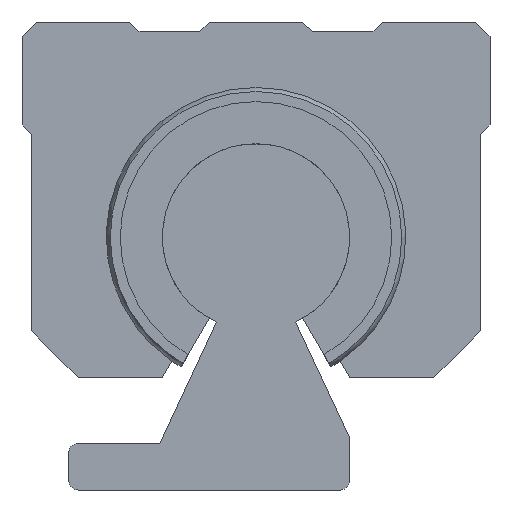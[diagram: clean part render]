
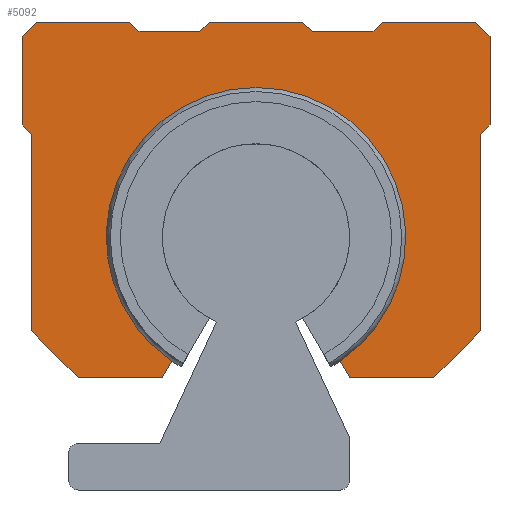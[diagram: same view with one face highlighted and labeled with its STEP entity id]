
A CAD part, left-side view. The second image highlights one B-rep face of the part: STEP entity #5092.
In plain terms, the highlighted planar face has unit normal (-1, 0, 0).
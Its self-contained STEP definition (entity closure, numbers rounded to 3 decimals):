
#3859=CARTESIAN_POINT('',(274.089,-9.0,13.771));
#3860=VERTEX_POINT('',#3859);
#3867=CARTESIAN_POINT('',(274.089,9.0,13.771));
#3868=VERTEX_POINT('',#3867);
#3869=CARTESIAN_POINT('',(274.089,0.0,27.0));
#3870=DIRECTION('',(-1.0,0.0,0.0));
#3871=DIRECTION('',(0.0,-1.0,0.0));
#3872=AXIS2_PLACEMENT_3D('',#3869,#3870,#3871);
#3873=CIRCLE('',#3872,16.0);
#3874=EDGE_CURVE('',#3860,#3868,#3873,.T.);
#4042=CARTESIAN_POINT('',(274.089,-24.,17.0));
#4043=VERTEX_POINT('',#4042);
#4050=CARTESIAN_POINT('',(274.089,-19.0,12.));
#4051=VERTEX_POINT('',#4050);
#4052=CARTESIAN_POINT('',(274.089,-24.,17.0));
#4053=DIRECTION('',(0.0,0.707,-0.707));
#4054=VECTOR('',#4053,7.071);
#4055=LINE('',#4052,#4054);
#4056=EDGE_CURVE('',#4043,#4051,#4055,.T.);
#4081=CARTESIAN_POINT('',(274.089,-24.,38.0));
#4082=VERTEX_POINT('',#4081);
#4089=CARTESIAN_POINT('',(274.089,-24.,38.0));
#4090=DIRECTION('',(0.0,0.0,-1.0));
#4091=VECTOR('',#4090,21.0);
#4092=LINE('',#4089,#4091);
#4093=EDGE_CURVE('',#4082,#4043,#4092,.T.);
#4279=CARTESIAN_POINT('',(274.089,19.,12.));
#4280=VERTEX_POINT('',#4279);
#4287=CARTESIAN_POINT('',(274.089,24.,17.));
#4288=VERTEX_POINT('',#4287);
#4289=CARTESIAN_POINT('',(274.089,19.,12.));
#4290=DIRECTION('',(0.0,0.707,0.707));
#4291=VECTOR('',#4290,7.071);
#4292=LINE('',#4289,#4291);
#4293=EDGE_CURVE('',#4280,#4288,#4292,.T.);
#4311=CARTESIAN_POINT('',(274.089,10.023,12.));
#4312=VERTEX_POINT('',#4311);
#4319=CARTESIAN_POINT('',(274.089,10.023,12.));
#4320=DIRECTION('',(0.0,1.0,0.0));
#4321=VECTOR('',#4320,8.977);
#4322=LINE('',#4319,#4321);
#4323=EDGE_CURVE('',#4312,#4280,#4322,.T.);
#4333=CARTESIAN_POINT('',(274.089,-5.,50.0));
#4334=VERTEX_POINT('',#4333);
#4335=CARTESIAN_POINT('',(274.089,-6.,49.0));
#4336=VERTEX_POINT('',#4335);
#4337=CARTESIAN_POINT('',(274.089,-5.,50.0));
#4338=DIRECTION('',(0.0,-0.707,-0.707));
#4339=VECTOR('',#4338,1.414);
#4340=LINE('',#4337,#4339);
#4341=EDGE_CURVE('',#4334,#4336,#4340,.T.);
#4365=CARTESIAN_POINT('',(274.089,-12.5,49.0));
#4366=VERTEX_POINT('',#4365);
#4367=CARTESIAN_POINT('',(274.089,-6.,49.0));
#4368=DIRECTION('',(0.0,-1.0,0.0));
#4369=VECTOR('',#4368,6.5);
#4370=LINE('',#4367,#4369);
#4371=EDGE_CURVE('',#4336,#4366,#4370,.T.);
#4388=CARTESIAN_POINT('',(274.089,13.5,50.0));
#4389=VERTEX_POINT('',#4388);
#4390=CARTESIAN_POINT('',(274.089,12.5,49.0));
#4391=VERTEX_POINT('',#4390);
#4392=CARTESIAN_POINT('',(274.089,13.5,50.0));
#4393=DIRECTION('',(0.0,-0.707,-0.707));
#4394=VECTOR('',#4393,1.414);
#4395=LINE('',#4392,#4394);
#4396=EDGE_CURVE('',#4389,#4391,#4395,.T.);
#4420=CARTESIAN_POINT('',(274.089,6.,49.0));
#4421=VERTEX_POINT('',#4420);
#4422=CARTESIAN_POINT('',(274.089,12.5,49.0));
#4423=DIRECTION('',(0.0,-1.0,0.0));
#4424=VECTOR('',#4423,6.5);
#4425=LINE('',#4422,#4424);
#4426=EDGE_CURVE('',#4391,#4421,#4425,.T.);
#4443=CARTESIAN_POINT('',(274.089,5.,50.0));
#4444=VERTEX_POINT('',#4443);
#4445=CARTESIAN_POINT('',(274.089,6.,49.0));
#4446=DIRECTION('',(0.0,-0.707,0.707));
#4447=VECTOR('',#4446,1.414);
#4448=LINE('',#4445,#4447);
#4449=EDGE_CURVE('',#4421,#4444,#4448,.T.);
#4467=CARTESIAN_POINT('',(274.089,-13.5,50.0));
#4468=VERTEX_POINT('',#4467);
#4469=CARTESIAN_POINT('',(274.089,-12.5,49.0));
#4470=DIRECTION('',(0.0,-0.707,0.707));
#4471=VECTOR('',#4470,1.414);
#4472=LINE('',#4469,#4471);
#4473=EDGE_CURVE('',#4366,#4468,#4472,.T.);
#4491=CARTESIAN_POINT('',(274.089,24.,38.0));
#4492=VERTEX_POINT('',#4491);
#4493=CARTESIAN_POINT('',(274.089,25.0,39.0));
#4494=VERTEX_POINT('',#4493);
#4495=CARTESIAN_POINT('',(274.089,24.,38.0));
#4496=DIRECTION('',(0.0,0.707,0.707));
#4497=VECTOR('',#4496,1.414);
#4498=LINE('',#4495,#4497);
#4499=EDGE_CURVE('',#4492,#4494,#4498,.T.);
#4522=CARTESIAN_POINT('',(274.089,-25.0,39.0));
#4523=VERTEX_POINT('',#4522);
#4524=CARTESIAN_POINT('',(274.089,-25.0,39.0));
#4525=DIRECTION('',(0.0,0.707,-0.707));
#4526=VECTOR('',#4525,1.414);
#4527=LINE('',#4524,#4526);
#4528=EDGE_CURVE('',#4523,#4082,#4527,.T.);
#4547=CARTESIAN_POINT('',(274.089,25.0,48.5));
#4548=VERTEX_POINT('',#4547);
#4555=CARTESIAN_POINT('',(274.089,23.5,50.0));
#4556=VERTEX_POINT('',#4555);
#4557=CARTESIAN_POINT('',(274.089,25.0,48.5));
#4558=DIRECTION('',(0.0,-0.707,0.707));
#4559=VECTOR('',#4558,2.121);
#4560=LINE('',#4557,#4559);
#4561=EDGE_CURVE('',#4548,#4556,#4560,.T.);
#4580=CARTESIAN_POINT('',(274.089,25.0,39.0));
#4581=DIRECTION('',(0.0,0.0,1.0));
#4582=VECTOR('',#4581,9.5);
#4583=LINE('',#4580,#4582);
#4584=EDGE_CURVE('',#4494,#4548,#4583,.T.);
#4595=CARTESIAN_POINT('',(274.089,-23.5,50.0));
#4596=VERTEX_POINT('',#4595);
#4603=CARTESIAN_POINT('',(274.089,-25.0,48.5));
#4604=VERTEX_POINT('',#4603);
#4605=CARTESIAN_POINT('',(274.089,-23.5,50.0));
#4606=DIRECTION('',(0.0,-0.707,-0.707));
#4607=VECTOR('',#4606,2.121);
#4608=LINE('',#4605,#4607);
#4609=EDGE_CURVE('',#4596,#4604,#4608,.T.);
#4628=CARTESIAN_POINT('',(274.089,-13.5,50.0));
#4629=DIRECTION('',(0.0,-1.0,0.0));
#4630=VECTOR('',#4629,10.0);
#4631=LINE('',#4628,#4630);
#4632=EDGE_CURVE('',#4468,#4596,#4631,.T.);
#4965=CARTESIAN_POINT('',(274.089,24.,17.));
#4966=DIRECTION('',(0.0,0.0,1.0));
#4967=VECTOR('',#4966,21.);
#4968=LINE('',#4965,#4967);
#4969=EDGE_CURVE('',#4288,#4492,#4968,.T.);
#4989=CARTESIAN_POINT('',(274.089,9.0,13.771));
#4990=DIRECTION('',(0.0,0.5,-0.866));
#4991=VECTOR('',#4990,2.045);
#4992=LINE('',#4989,#4991);
#4993=EDGE_CURVE('',#3868,#4312,#4992,.T.);
#5005=CARTESIAN_POINT('',(274.089,-10.023,12.));
#5006=VERTEX_POINT('',#5005);
#5013=CARTESIAN_POINT('',(274.089,-10.023,12.));
#5014=DIRECTION('',(0.0,0.5,0.866));
#5015=VECTOR('',#5014,2.045);
#5016=LINE('',#5013,#5015);
#5017=EDGE_CURVE('',#5006,#3860,#5016,.T.);
#5035=CARTESIAN_POINT('',(274.089,-19.0,12.));
#5036=DIRECTION('',(0.0,1.0,0.0));
#5037=VECTOR('',#5036,8.977);
#5038=LINE('',#5035,#5037);
#5039=EDGE_CURVE('',#4051,#5006,#5038,.T.);
#5046=CARTESIAN_POINT('',(274.089,0.,31.444));
#5047=DIRECTION('',(1.0,0.0,0.0));
#5048=DIRECTION('',(0.0,0.0,-1.0));
#5049=AXIS2_PLACEMENT_3D('',#5046,#5047,#5048);
#5050=PLANE('',#5049);
#5051=ORIENTED_EDGE('',*,*,#4056,.F.);
#5052=ORIENTED_EDGE('',*,*,#4093,.F.);
#5053=ORIENTED_EDGE('',*,*,#4528,.F.);
#5054=CARTESIAN_POINT('',(274.089,-25.0,48.5));
#5055=DIRECTION('',(0.0,0.0,-1.0));
#5056=VECTOR('',#5055,9.5);
#5057=LINE('',#5054,#5056);
#5058=EDGE_CURVE('',#4604,#4523,#5057,.T.);
#5059=ORIENTED_EDGE('',*,*,#5058,.F.);
#5060=ORIENTED_EDGE('',*,*,#4609,.F.);
#5061=ORIENTED_EDGE('',*,*,#4632,.F.);
#5062=ORIENTED_EDGE('',*,*,#4473,.F.);
#5063=ORIENTED_EDGE('',*,*,#4371,.F.);
#5064=ORIENTED_EDGE('',*,*,#4341,.F.);
#5065=CARTESIAN_POINT('',(274.089,5.,50.0));
#5066=DIRECTION('',(0.0,-1.0,0.0));
#5067=VECTOR('',#5066,10.);
#5068=LINE('',#5065,#5067);
#5069=EDGE_CURVE('',#4444,#4334,#5068,.T.);
#5070=ORIENTED_EDGE('',*,*,#5069,.F.);
#5071=ORIENTED_EDGE('',*,*,#4449,.F.);
#5072=ORIENTED_EDGE('',*,*,#4426,.F.);
#5073=ORIENTED_EDGE('',*,*,#4396,.F.);
#5074=CARTESIAN_POINT('',(274.089,23.5,50.0));
#5075=DIRECTION('',(0.0,-1.0,0.0));
#5076=VECTOR('',#5075,10.);
#5077=LINE('',#5074,#5076);
#5078=EDGE_CURVE('',#4556,#4389,#5077,.T.);
#5079=ORIENTED_EDGE('',*,*,#5078,.F.);
#5080=ORIENTED_EDGE('',*,*,#4561,.F.);
#5081=ORIENTED_EDGE('',*,*,#4584,.F.);
#5082=ORIENTED_EDGE('',*,*,#4499,.F.);
#5083=ORIENTED_EDGE('',*,*,#4969,.F.);
#5084=ORIENTED_EDGE('',*,*,#4293,.F.);
#5085=ORIENTED_EDGE('',*,*,#4323,.F.);
#5086=ORIENTED_EDGE('',*,*,#4993,.F.);
#5087=ORIENTED_EDGE('',*,*,#3874,.F.);
#5088=ORIENTED_EDGE('',*,*,#5017,.F.);
#5089=ORIENTED_EDGE('',*,*,#5039,.F.);
#5090=EDGE_LOOP('',(#5051,#5052,#5053,#5059,#5060,#5061,#5062,#5063,#5064,#5070,#5071,#5072,#5073,#5079,#5080,#5081,#5082,#5083,#5084,#5085,#5086,#5087,#5088,#5089));
#5091=FACE_OUTER_BOUND('',#5090,.T.);
#5092=ADVANCED_FACE('',(#5091),#5050,.F.);
